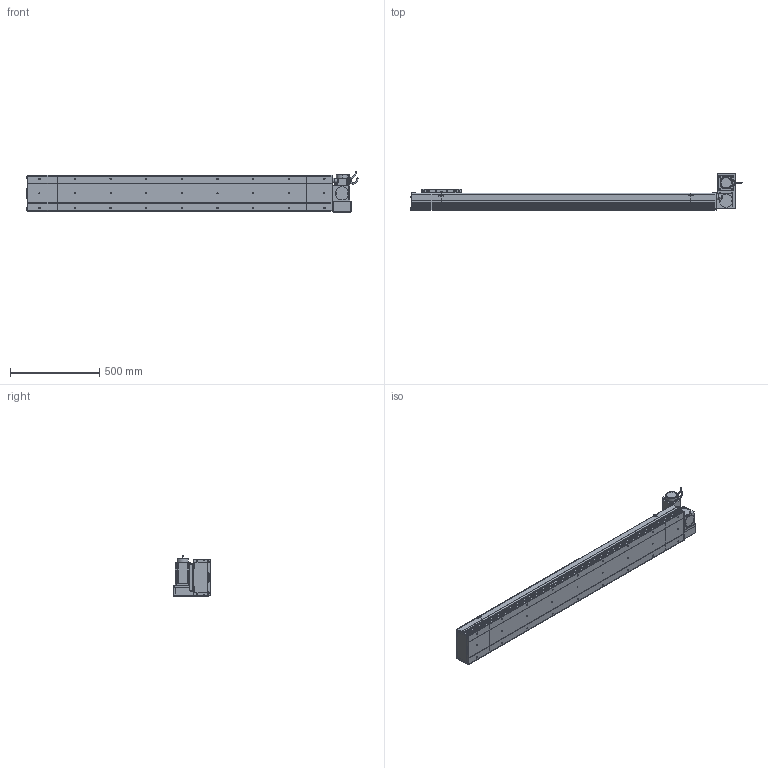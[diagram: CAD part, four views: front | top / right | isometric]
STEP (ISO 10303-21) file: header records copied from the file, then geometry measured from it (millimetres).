
FILE_DESCRIPTION (( 'STEP AP214' ), '1' );
FILE_NAME ('D20 CBH RT S1400.STEP', '2010-06-30T09:26:43', ( 'Conseil Régional Haute-Normandie' ), ( 'Conseil Régional Haute-Normandie' ), 'SwSTEP 2.0', 'SolidWorks 2010', '' );
FILE_SCHEMA (( 'AUTOMOTIVE_DESIGN' ));
Length unit declared in the file: millimetre
Products named in the file (31): avant 90BLDC125A-640; corps 90BLDC125A-640; Conecteur_Default; codeur 90BLDC125-640; Conecteur2_Default; Rondelle Cache D20 RT_Default; ecrou_Default; vis M5 L30_Default; vis M5 L47_Default; Cache Support Moteur RT_Default; Support Chariot D20_Default; Chariot D20_Default; Plaque De Serrage D20_Default; vis M5 L15_Default; Glissiere_Default; Plaque de Bout Tail D20_Default; Couvercle_Default; Corp Tail D20_Default; Tail D20_Default; Couvercle S1400_Default; Corp S1400_Default; Corp D20 S1400_Default; Head RT_Default; D20 CBH RT S1400; Plaque de Bout Head D20 RT_Default; Couvercle RT_Default; Corp Tail D20 RT_Default; Moteur motionking 90BLDC125A-640; Support moteur RT_Default; Plaque De Serrage D20 RT_Default
Assembly tree (68 placements, depth 4):
  D20 CBH RT S1400
    Head RT_Default
      ecrou_Default  x4
      vis M5 L15_Default  x14
      Cache Support Moteur RT_Default
      vis M5 L47_Default  x4
      Plaque de Bout Head D20 RT_Default
      vis M5 L30_Default  x4
      Rondelle Cache D20 RT_Default  x3
      Corp Tail D20 RT_Default
      Couvercle RT_Default
      Moteur motionking 90BLDC125A-640
        Conecteur2_Default
        codeur 90BLDC125-640
        corps 90BLDC125A-640
        Conecteur_Default
        avant 90BLDC125A-640
      Support moteur RT_Default
      Plaque De Serrage D20 RT_Default
    Tail D20_Default
      Couvercle_Default
      Plaque de Bout Tail D20_Default
      vis M5 L15_Default  x6
      Corp Tail D20_Default
      Plaque De Serrage D20_Default
    Corp D20 S1400_Default
      Corp S1400_Default
      Couvercle S1400_Default
    Chariot D20_Default
      vis M5 L15_Default  x8
      Chariot D20_Default
      Glissiere_Default
      Support Chariot D20_Default
Bounding box: 1864.45 x 206.5 x 229.7 mm (x, y, z)
Volume: 13134162.2 mm3; surface area: 2611160.7 mm2
Topology: 105 solids, 105 shells, 3790 faces, 9444 edges, 6130 vertices
Faces by surface type: plane 2119, bspline 806, cylinder 694, torus 95, cone 72, sphere 4
Entity records: 158702 total; most frequent: CARTESIAN_POINT 82196, ORIENTED_EDGE 15156, DIRECTION 11470, EDGE_CURVE 7578, VERTEX_POINT 5014, LINE 4918, VECTOR 4918, AXIS2_PLACEMENT_3D 3276
